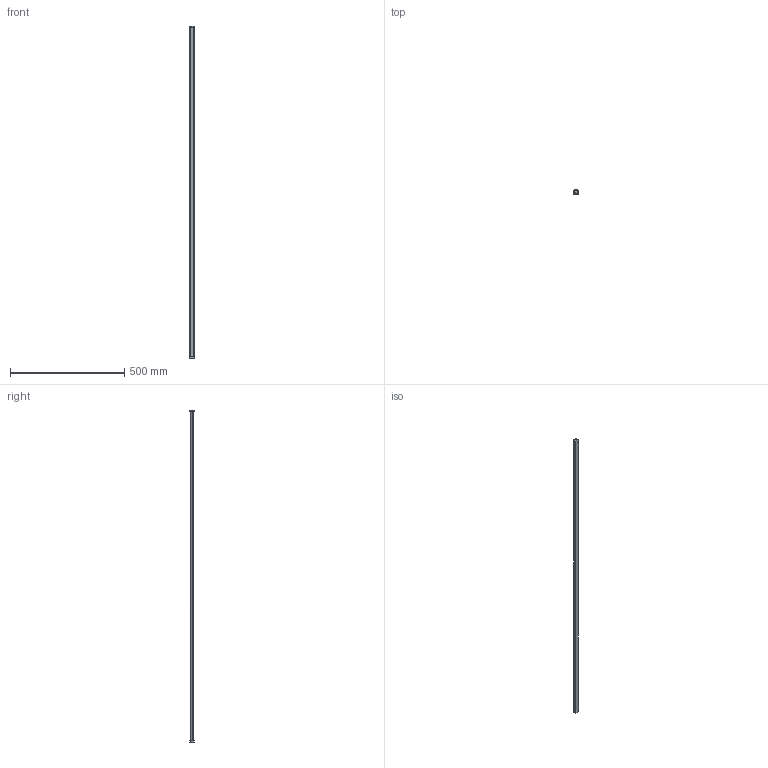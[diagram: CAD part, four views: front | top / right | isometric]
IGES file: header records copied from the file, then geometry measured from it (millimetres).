
Start section: SolidWorks IGES file using analytic representation for surfaces
Global section: file name: C:\Users\JoãoSantos\Desktop\02_3D.2D\01_2020\02_Linear\13_Limit\01_Limit\LIMIT_1455.IGS; native system: SolidWorks 2020; preprocessor: SolidWorks 2020; author: JoãoSantos; date: 201023.143135; units: millimetre
Bounding box: 22.93 x 18.8 x 1455 mm (x, y, z)
Surface area: 177794.2 mm2 (no closed solid volume)
Topology: 0 solids, 0 shells, 76 faces, 676 edges, 676 vertices
Faces by surface type: bspline 51, revolution 25
